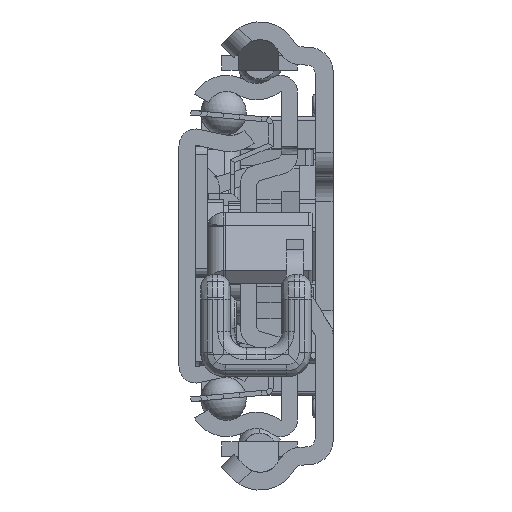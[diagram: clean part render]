
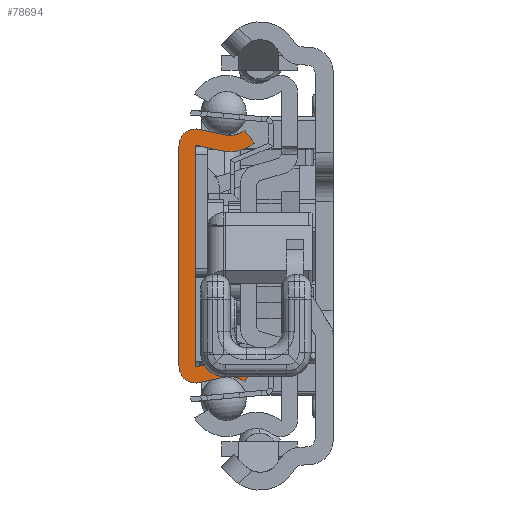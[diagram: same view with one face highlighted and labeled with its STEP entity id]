
A CAD part, left-side view. The second image highlights one B-rep face of the part: STEP entity #78694.
In plain terms, the highlighted planar face has unit normal (-1, 0, 0).
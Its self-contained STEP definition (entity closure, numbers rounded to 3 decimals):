
#73024=CARTESIAN_POINT('',(0.,-6.29,-17.65));
#73025=DIRECTION('',(-1.,0.,0.));
#73026=DIRECTION('',(0.,-0.629,0.778));
#73027=AXIS2_PLACEMENT_3D('',#73024,#73025,#73026);
#73029=DIRECTION('',(0.,0.977,-0.213));
#73030=VECTOR('',#73029,3.218);
#73031=CARTESIAN_POINT('',(0.,-5.692,-14.915));
#73032=LINE('',#73031,#73030);
#73033=CARTESIAN_POINT('',(0.,-2.1,-13.55));
#73034=DIRECTION('',(1.,0.,0.));
#73035=DIRECTION('',(0.,-0.213,-0.977));
#73036=AXIS2_PLACEMENT_3D('',#73033,#73034,#73035);
#73038=DIRECTION('',(0.,0.,1.));
#73039=VECTOR('',#73038,27.1);
#73040=CARTESIAN_POINT('',(0.,0.,-13.55));
#73041=LINE('',#73040,#73039);
#73042=CARTESIAN_POINT('',(0.,-2.1,13.55));
#73043=DIRECTION('',(1.,0.,0.));
#73044=DIRECTION('',(0.,1.,0.));
#73045=AXIS2_PLACEMENT_3D('',#73042,#73043,#73044);
#73047=DIRECTION('',(0.,-0.977,-0.213));
#73048=VECTOR('',#73047,3.218);
#73049=CARTESIAN_POINT('',(0.,-2.548,15.602));
#73050=LINE('',#73049,#73048);
#73051=CARTESIAN_POINT('',(0.,-6.29,17.65));
#73052=DIRECTION('',(-1.,0.,0.));
#73053=DIRECTION('',(0.,0.213,-0.977));
#73054=AXIS2_PLACEMENT_3D('',#73051,#73052,#73053);
#73056=DIRECTION('',(0.,-0.629,-0.778));
#73057=VECTOR('',#73056,2.);
#73058=CARTESIAN_POINT('',(0.,-8.05,15.472));
#73059=LINE('',#73058,#73057);
#73060=CARTESIAN_POINT('',(0.,-6.29,17.65));
#73061=DIRECTION('',(1.,0.,0.));
#73062=DIRECTION('',(0.,-0.629,-0.778));
#73063=AXIS2_PLACEMENT_3D('',#73060,#73061,#73062);
#73065=DIRECTION('',(0.,0.977,0.213));
#73066=VECTOR('',#73065,3.218);
#73067=CARTESIAN_POINT('',(0.,-5.265,12.961));
#73068=LINE('',#73067,#73066);
#73069=CARTESIAN_POINT('',(0.,-2.1,13.55));
#73070=DIRECTION('',(-1.,0.,0.));
#73071=DIRECTION('',(0.,-0.213,0.977));
#73072=AXIS2_PLACEMENT_3D('',#73069,#73070,#73071);
#73074=DIRECTION('',(0.,0.,-1.));
#73075=VECTOR('',#73074,27.1);
#73076=CARTESIAN_POINT('',(0.,-2.,13.55));
#73077=LINE('',#73076,#73075);
#73078=CARTESIAN_POINT('',(0.,-2.1,-13.55));
#73079=DIRECTION('',(-1.,0.,0.));
#73080=DIRECTION('',(0.,1.,0.));
#73081=AXIS2_PLACEMENT_3D('',#73078,#73079,#73080);
#73083=DIRECTION('',(0.,-0.977,0.213));
#73084=VECTOR('',#73083,3.218);
#73085=CARTESIAN_POINT('',(0.,-2.121,-13.648));
#73086=LINE('',#73085,#73084);
#73087=CARTESIAN_POINT('',(0.,-6.29,-17.65));
#73088=DIRECTION('',(1.,0.,0.));
#73089=DIRECTION('',(0.,0.213,0.977));
#73090=AXIS2_PLACEMENT_3D('',#73087,#73088,#73089);
#73092=DIRECTION('',(0.,0.629,-0.778));
#73093=VECTOR('',#73092,2.);
#73094=CARTESIAN_POINT('',(0.,-9.307,-13.917));
#73095=LINE('',#73094,#73093);
#77621=CARTESIAN_POINT('',(0.,-8.05,-15.472));
#77622=CARTESIAN_POINT('',(0.,-5.692,-14.915));
#77623=VERTEX_POINT('',#77621);
#77624=VERTEX_POINT('',#77622);
#77625=CARTESIAN_POINT('',(0.,-2.548,-15.602));
#77626=VERTEX_POINT('',#77625);
#77627=CARTESIAN_POINT('',(0.,0.,-13.55));
#77628=VERTEX_POINT('',#77627);
#77629=CARTESIAN_POINT('',(0.,0.,13.55));
#77630=VERTEX_POINT('',#77629);
#77631=CARTESIAN_POINT('',(0.,-2.548,15.602));
#77632=VERTEX_POINT('',#77631);
#77633=CARTESIAN_POINT('',(0.,-5.692,14.915));
#77634=VERTEX_POINT('',#77633);
#77635=CARTESIAN_POINT('',(0.,-8.05,15.472));
#77636=VERTEX_POINT('',#77635);
#77637=CARTESIAN_POINT('',(0.,-9.307,13.917));
#77638=VERTEX_POINT('',#77637);
#77639=CARTESIAN_POINT('',(0.,-5.265,12.961));
#77640=VERTEX_POINT('',#77639);
#77641=CARTESIAN_POINT('',(0.,-2.121,13.648));
#77642=VERTEX_POINT('',#77641);
#77643=CARTESIAN_POINT('',(0.,-2.,13.55));
#77644=VERTEX_POINT('',#77643);
#77645=CARTESIAN_POINT('',(0.,-2.,-13.55));
#77646=VERTEX_POINT('',#77645);
#77647=CARTESIAN_POINT('',(0.,-2.121,-13.648));
#77648=VERTEX_POINT('',#77647);
#77649=CARTESIAN_POINT('',(0.,-5.265,-12.961));
#77650=VERTEX_POINT('',#77649);
#77651=CARTESIAN_POINT('',(0.,-9.307,-13.917));
#77652=VERTEX_POINT('',#77651);
#78655=CARTESIAN_POINT('',(0.,0.,0.));
#78656=DIRECTION('',(1.,0.,0.));
#78657=DIRECTION('',(0.,-1.,0.));
#78658=AXIS2_PLACEMENT_3D('',#78655,#78656,#78657);
#78659=PLANE('',#78658);
#78661=ORIENTED_EDGE('',*,*,#78660,.T.);
#78663=ORIENTED_EDGE('',*,*,#78662,.T.);
#78665=ORIENTED_EDGE('',*,*,#78664,.T.);
#78667=ORIENTED_EDGE('',*,*,#78666,.T.);
#78669=ORIENTED_EDGE('',*,*,#78668,.T.);
#78671=ORIENTED_EDGE('',*,*,#78670,.T.);
#78673=ORIENTED_EDGE('',*,*,#78672,.T.);
#78675=ORIENTED_EDGE('',*,*,#78674,.T.);
#78677=ORIENTED_EDGE('',*,*,#78676,.T.);
#78679=ORIENTED_EDGE('',*,*,#78678,.T.);
#78681=ORIENTED_EDGE('',*,*,#78680,.T.);
#78683=ORIENTED_EDGE('',*,*,#78682,.T.);
#78685=ORIENTED_EDGE('',*,*,#78684,.T.);
#78687=ORIENTED_EDGE('',*,*,#78686,.T.);
#78689=ORIENTED_EDGE('',*,*,#78688,.T.);
#78691=ORIENTED_EDGE('',*,*,#78690,.T.);
#78692=EDGE_LOOP('',(#78661,#78663,#78665,#78667,#78669,#78671,#78673,#78675,
#78677,#78679,#78681,#78683,#78685,#78687,#78689,#78691));
#78693=FACE_OUTER_BOUND('',#78692,.F.);
#73028=CIRCLE('',#73027,2.8);
#73037=CIRCLE('',#73036,2.1);
#73046=CIRCLE('',#73045,2.1);
#73055=CIRCLE('',#73054,2.8);
#73064=CIRCLE('',#73063,4.8);
#73073=CIRCLE('',#73072,0.1);
#73082=CIRCLE('',#73081,0.1);
#73091=CIRCLE('',#73090,4.8);
#78660=EDGE_CURVE('',#77623,#77624,#73028,.T.);
#78662=EDGE_CURVE('',#77624,#77626,#73032,.T.);
#78664=EDGE_CURVE('',#77626,#77628,#73037,.T.);
#78666=EDGE_CURVE('',#77628,#77630,#73041,.T.);
#78668=EDGE_CURVE('',#77630,#77632,#73046,.T.);
#78670=EDGE_CURVE('',#77632,#77634,#73050,.T.);
#78672=EDGE_CURVE('',#77634,#77636,#73055,.T.);
#78674=EDGE_CURVE('',#77636,#77638,#73059,.T.);
#78676=EDGE_CURVE('',#77638,#77640,#73064,.T.);
#78678=EDGE_CURVE('',#77640,#77642,#73068,.T.);
#78680=EDGE_CURVE('',#77642,#77644,#73073,.T.);
#78682=EDGE_CURVE('',#77644,#77646,#73077,.T.);
#78684=EDGE_CURVE('',#77646,#77648,#73082,.T.);
#78686=EDGE_CURVE('',#77648,#77650,#73086,.T.);
#78688=EDGE_CURVE('',#77650,#77652,#73091,.T.);
#78690=EDGE_CURVE('',#77652,#77623,#73095,.T.);
#78694=ADVANCED_FACE('',(#78693),#78659,.F.);
